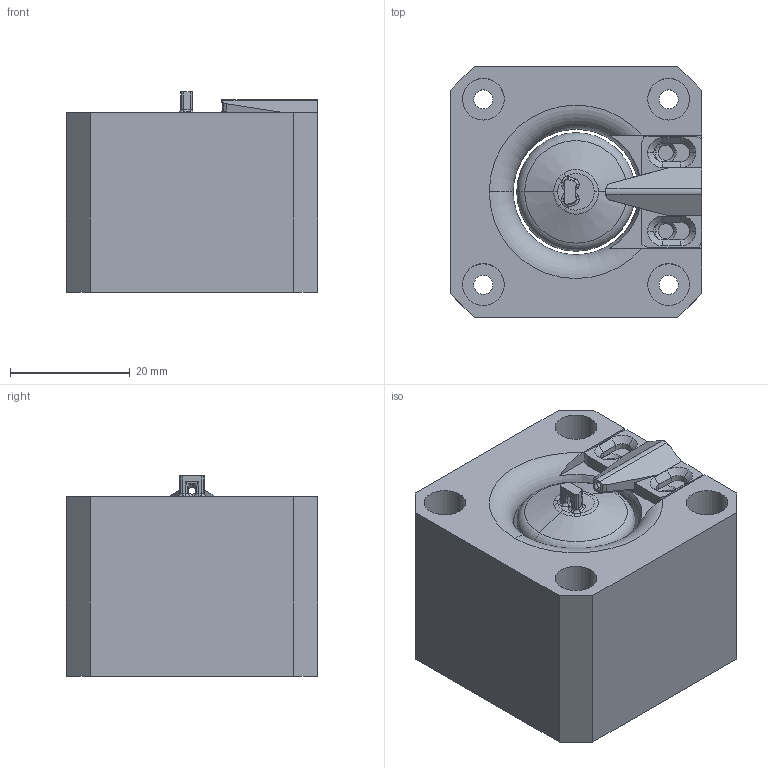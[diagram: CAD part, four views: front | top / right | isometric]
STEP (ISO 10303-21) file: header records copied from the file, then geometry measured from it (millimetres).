
FILE_DESCRIPTION(('STEP AP214'),'1');
FILE_NAME('X:/Projects/CAD/CNC/wire_bending/wire_bending_machine.stp','2019-11-10T22:35:57',('Felix Schill'),('Scinamics'),'Spatial InterOp 3D',' ',' ');
FILE_SCHEMA(('automotive_design'));
Length unit declared in the file: inch
Products named in the file (3): Part_7883; Part_58087; Part_57247
Bounding box: 42 x 42 x 33.5 mm (x, y, z)
Volume: 42691.9 mm3; surface area: 14803.2 mm2
Topology: 3 solids, 3 shells, 253 faces, 676 edges, 430 vertices
Faces by surface type: cylinder 128, plane 62, torus 24, cone 20, bspline 19
Entity records: 27151 total; most frequent: CARTESIAN_POINT 18896, ORIENTED_EDGE 1348, DIRECTION 1224, EDGE_CURVE 674, AXIS2_PLACEMENT_3D 475, VERTEX_POINT 430, EDGE_LOOP 276, LINE 274
